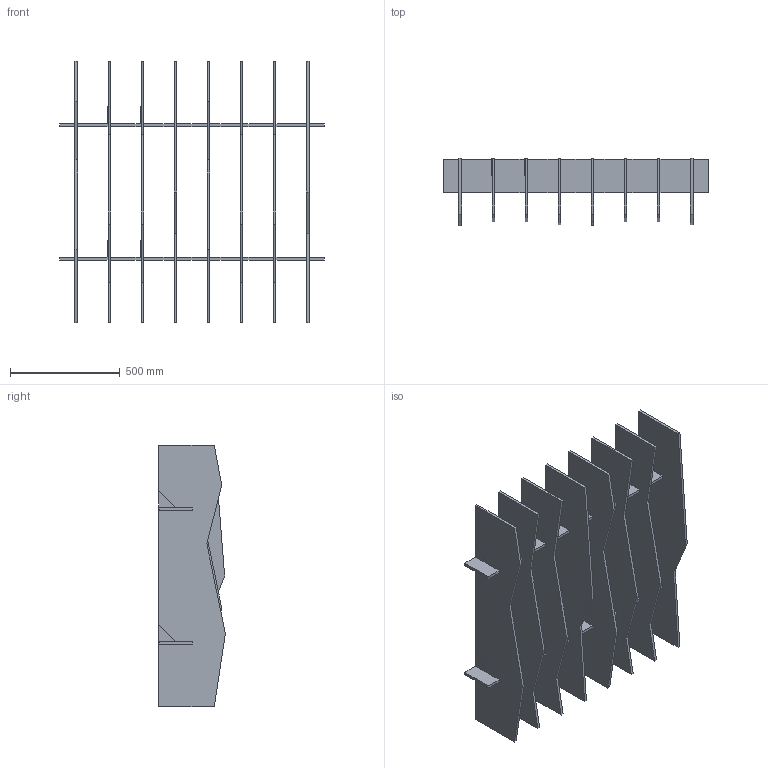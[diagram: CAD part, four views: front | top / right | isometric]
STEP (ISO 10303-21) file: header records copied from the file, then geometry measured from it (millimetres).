
FILE_DESCRIPTION(/* description */ (''),/* implementation_level */ '2;1');
FILE_NAME(/* name */ 'Y:\Design and Engineering\MaterialLogiq\CAD ASSETS\MASTER\BAFFLE\WEB ASSETS\PET BAFFLE_8FIN_4x4_10_PEAKS.stp',/* time_stamp */ '2023-11-16T09:36:53-06:00',/* author */ ('Grant Baker'),/* organization */ (''),/* preprocessor_version */ 'ST-DEVELOPER v19',/* originating_system */ 'Autodesk Inventor 2023',/* authorisation */ '');
FILE_SCHEMA (('AUTOMOTIVE_DESIGN { 1 0 10303 214 3 1 1 }'));
Length unit declared in the file: inch
Products named in the file (5): PET BAFFLE_PARAMETRIC_11.02.2023; PET BAFFLE_BEAM; PET BAFFLE_48in_FIN_PEAKS-1; PET BAFFLE_48in_FIN_PEAKS-3; PET BAFFLE_48in_FIN_PEAKS-4
Assembly tree (10 placements, depth 2):
  PET BAFFLE_PARAMETRIC_11.02.2023
    PET BAFFLE_BEAM  x2
    PET BAFFLE_48in_FIN_PEAKS-1  x2
    PET BAFFLE_48in_FIN_PEAKS-3  x4
    PET BAFFLE_48in_FIN_PEAKS-4  x2
Bounding box: 1206.5 x 304.8 x 1193.8 mm (x, y, z)
Volume: 33751565.9 mm3; surface area: 5973103.3 mm2
Topology: 26 solids, 26 shells, 434 faces, 1146 edges, 764 vertices
Faces by surface type: plane 434
Entity records: 5711 total; most frequent: CARTESIAN_POINT 995, ORIENTED_EDGE 960, DIRECTION 870, LINE 480, VECTOR 480, EDGE_CURVE 480, VERTEX_POINT 320, AXIS2_PLACEMENT_3D 195
